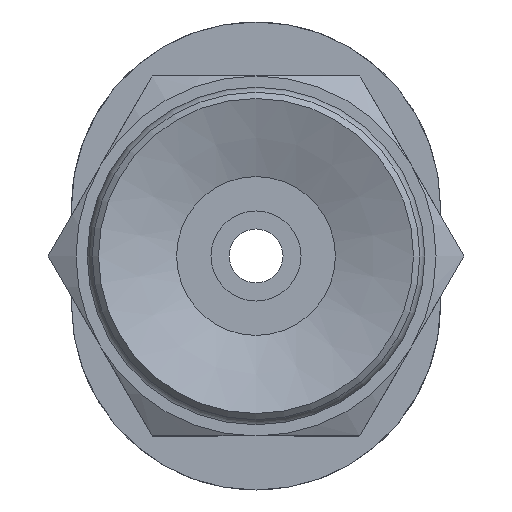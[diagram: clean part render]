
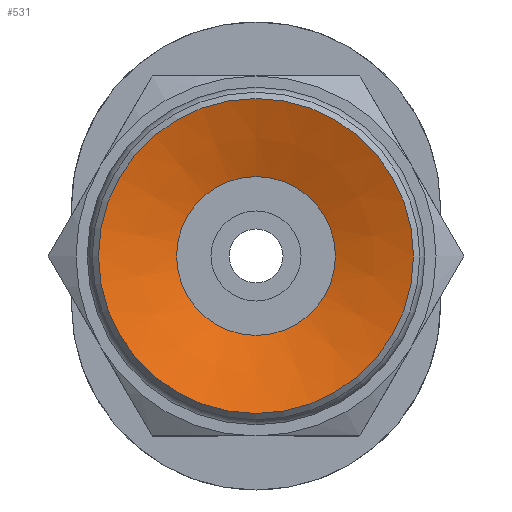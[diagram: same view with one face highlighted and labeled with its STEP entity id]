
A CAD part, front view. The second image highlights one B-rep face of the part: STEP entity #531.
In plain terms, the highlighted conical face has half-angle 70 degrees and reference radius 3.5 mm.
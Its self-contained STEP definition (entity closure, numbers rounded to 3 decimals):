
#531=ADVANCED_FACE('',(#787,#788),#789,.F.);
#787=FACE_BOUND('',#1166,.T.);
#788=FACE_OUTER_BOUND('',#1167,.T.);
#789=CONICAL_SURFACE('',#1168,3.5,1.222);
#1166=EDGE_LOOP('',(#2084));
#1167=EDGE_LOOP('',(#2085));
#1168=AXIS2_PLACEMENT_3D('',#2086,#2087,#2088);
#2084=ORIENTED_EDGE('',*,*,#2659,.F.);
#2085=ORIENTED_EDGE('',*,*,#2657,.T.);
#2086=CARTESIAN_POINT('',(0.0,0.0,0.0));
#2087=DIRECTION('',(-0.0,-1.0,0.));
#2088=DIRECTION('',(0.0,0.,-1.0));
#2657=EDGE_CURVE('',#2997,#2997,#2998,.T.);
#2659=EDGE_CURVE('',#3001,#3001,#3002,.T.);
#2997=VERTEX_POINT('',#3723);
#2998=CIRCLE('',#3724,3.5);
#3001=VERTEX_POINT('',#3727);
#3002=CIRCLE('',#3728,1.765);
#3723=CARTESIAN_POINT('',(0.0,0.,-3.5));
#3724=AXIS2_PLACEMENT_3D('',#4388,#4389,#4390);
#3727=CARTESIAN_POINT('',(0.0,0.632,-1.765));
#3728=AXIS2_PLACEMENT_3D('',#4394,#4395,#4396);
#4388=CARTESIAN_POINT('',(0.0,0.0,0.0));
#4389=DIRECTION('',(0.0,-1.0,0.));
#4390=DIRECTION('',(0.0,0.,-1.0));
#4394=CARTESIAN_POINT('',(0.0,0.632,0.0));
#4395=DIRECTION('',(0.0,-1.0,0.));
#4396=DIRECTION('',(0.0,0.,-1.0));
